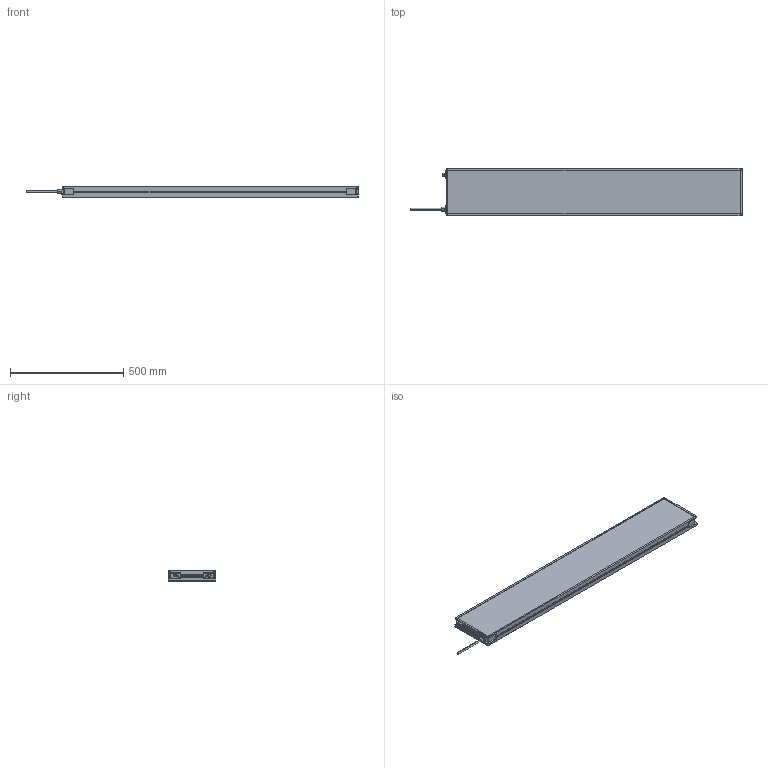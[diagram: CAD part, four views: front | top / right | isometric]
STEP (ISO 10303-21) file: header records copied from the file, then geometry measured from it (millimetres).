
FILE_DESCRIPTION (( 'STEP AP214' ), '1' );
FILE_NAME ('MBACK-xxxx-xxx-M1A2_CLIENT200x1300.STEP', '2022-04-01T11:30:00', ( '' ), ( '' ), 'SwSTEP 2.0', 'SolidWorks 2020', '' );
FILE_SCHEMA (( 'AUTOMOTIVE_DESIGN' ));
Length unit declared in the file: millimetre
Products named in the file (1): MBACK-xxxx-xxx-M1A2_CLIENT200x1300
Bounding box: 1467.4 x 208 x 45.5 mm (x, y, z)
Volume: 11272685.2 mm3; surface area: 751419.1 mm2
Topology: 1 solids, 1 shells, 470 faces, 1210 edges, 804 vertices
Faces by surface type: plane 265, cylinder 117, bspline 80, cone 8
Entity records: 18046 total; most frequent: CARTESIAN_POINT 6837, ORIENTED_EDGE 2420, DIRECTION 2082, EDGE_CURVE 1210, VERTEX_POINT 804, VECTOR 800, LINE 800, AXIS2_PLACEMENT_3D 641
